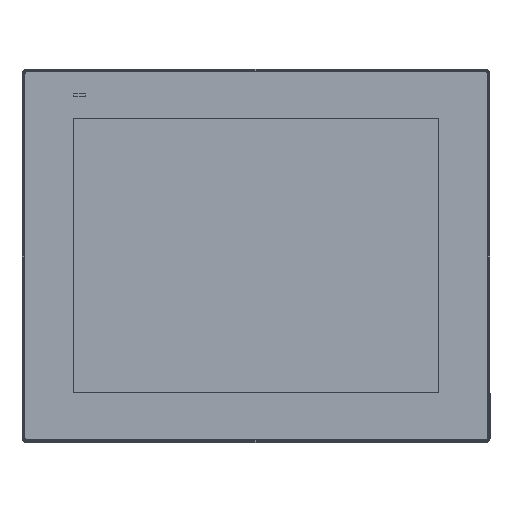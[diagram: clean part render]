
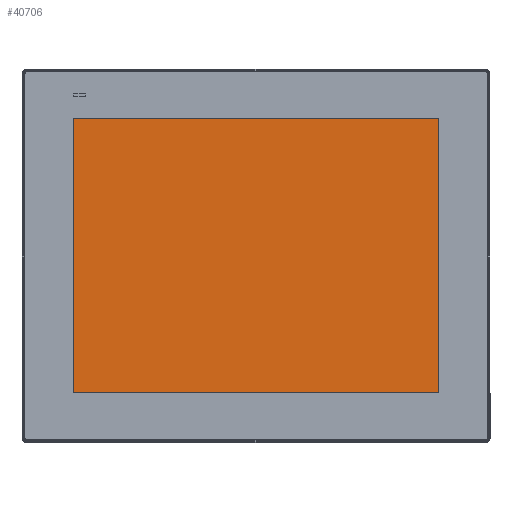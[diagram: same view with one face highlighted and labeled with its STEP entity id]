
A CAD part, front view. The second image highlights one B-rep face of the part: STEP entity #40706.
In plain terms, the highlighted planar face has unit normal (0, -1, 0).
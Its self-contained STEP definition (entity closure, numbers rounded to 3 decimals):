
#1522 = LINE ( 'NONE', #11313, #20341 ) ;
#1595 = DIRECTION ( 'NONE',  ( 0., 0., 1. ) ) ;
#3316 = AXIS2_PLACEMENT_3D ( 'NONE', #27708, #24117, #1595 ) ;
#4082 = VECTOR ( 'NONE', #7808, 1000. ) ;
#5500 = ORIENTED_EDGE ( 'NONE', *, *, #25370, .T. ) ;
#6030 = EDGE_CURVE ( 'NONE', #34695, #23392, #1522, .T. ) ;
#7808 = DIRECTION ( 'NONE',  ( 0., 0., -1. ) ) ;
#10412 = VERTEX_POINT ( 'NONE', #29514 ) ;
#11313 = CARTESIAN_POINT ( 'NONE',  ( 152.76, 0.01, 114.75 ) ) ;
#11374 = CARTESIAN_POINT ( 'NONE',  ( 152.76, 0.01, 114.75 ) ) ;
#12265 = LINE ( 'NONE', #11374, #48651 ) ;
#16550 = PLANE ( 'NONE',  #3316 ) ;
#17145 = EDGE_CURVE ( 'NONE', #23392, #37308, #12265, .T. ) ;
#20341 = VECTOR ( 'NONE', #44913, 1000. ) ;
#22725 = DIRECTION ( 'NONE',  ( -1., 0., 0. ) ) ;
#22798 = EDGE_CURVE ( 'NONE', #37308, #10412, #35227, .T. ) ;
#23392 = VERTEX_POINT ( 'NONE', #37829 ) ;
#24117 = DIRECTION ( 'NONE',  ( 0., 1., 0. ) ) ;
#25370 = EDGE_CURVE ( 'NONE', #10412, #34695, #35666, .T. ) ;
#27708 = CARTESIAN_POINT ( 'NONE',  ( 0., 0.01, 0. ) ) ;
#29514 = CARTESIAN_POINT ( 'NONE',  ( -152.76, 0.01, -114.75 ) ) ;
#32986 = CARTESIAN_POINT ( 'NONE',  ( 152.76, 0.01, -114.75 ) ) ;
#34074 = CARTESIAN_POINT ( 'NONE',  ( -152.76, 0.01, 114.75 ) ) ;
#34492 = VECTOR ( 'NONE', #48077, 1000. ) ;
#34695 = VERTEX_POINT ( 'NONE', #40603 ) ;
#35227 = LINE ( 'NONE', #34074, #4082 ) ;
#35666 = LINE ( 'NONE', #32986, #34492 ) ;
#35760 = FACE_OUTER_BOUND ( 'NONE', #47003, .T. ) ;
#36511 = ORIENTED_EDGE ( 'NONE', *, *, #22798, .T. ) ;
#37308 = VERTEX_POINT ( 'NONE', #44085 ) ;
#37829 = CARTESIAN_POINT ( 'NONE',  ( 152.76, 0.01, 114.75 ) ) ;
#40603 = CARTESIAN_POINT ( 'NONE',  ( 152.76, 0.01, -114.75 ) ) ;
#40706 = ADVANCED_FACE ( 'NONE', ( #35760 ), #16550, .F. ) ;
#43113 = ORIENTED_EDGE ( 'NONE', *, *, #6030, .T. ) ;
#44085 = CARTESIAN_POINT ( 'NONE',  ( -152.76, 0.01, 114.75 ) ) ;
#44913 = DIRECTION ( 'NONE',  ( 0., 0., 1. ) ) ;
#45765 = ORIENTED_EDGE ( 'NONE', *, *, #17145, .T. ) ;
#47003 = EDGE_LOOP ( 'NONE', ( #43113, #45765, #36511, #5500 ) ) ;
#48077 = DIRECTION ( 'NONE',  ( 1., 0., 0. ) ) ;
#48651 = VECTOR ( 'NONE', #22725, 1000. ) ;
